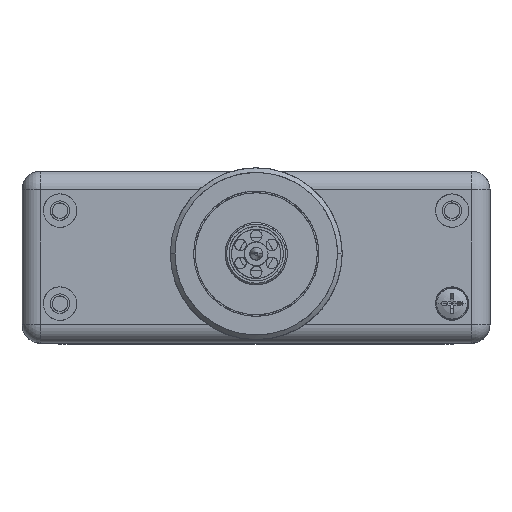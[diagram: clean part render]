
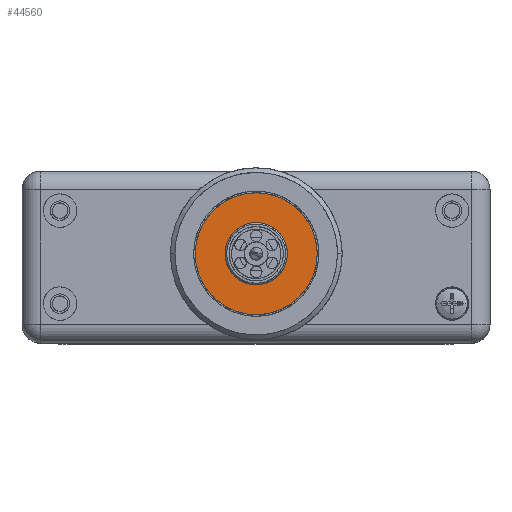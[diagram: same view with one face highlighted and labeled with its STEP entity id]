
A CAD part, top view. The second image highlights one B-rep face of the part: STEP entity #44560.
In plain terms, the highlighted planar face has unit normal (0, 0, 1).
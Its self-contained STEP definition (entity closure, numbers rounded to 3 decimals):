
#44467=CARTESIAN_POINT('',(-7.907,0.893,
20.176));
#44468=CARTESIAN_POINT('',(-7.888,1.452,
20.176));
#44469=CARTESIAN_POINT('',(-7.745,2.536,
20.176));
#44470=CARTESIAN_POINT('',(-7.195,4.089,
20.176));
#44471=CARTESIAN_POINT('',(-6.356,5.474,
20.176));
#44472=CARTESIAN_POINT('',(-5.272,6.647,
20.176));
#44473=CARTESIAN_POINT('',(-3.957,7.596,
20.176));
#44474=CARTESIAN_POINT('',(-2.398,8.287,
20.176));
#44475=CARTESIAN_POINT('',(-0.677,8.635,
20.176));
#44476=CARTESIAN_POINT('',(1.046,8.598,20.176));
#44477=CARTESIAN_POINT('',(2.697,8.203,20.176));
#44478=CARTESIAN_POINT('',(4.224,7.472,20.176));
#44479=CARTESIAN_POINT('',(5.538,6.454,20.176));
#44480=CARTESIAN_POINT('',(6.587,5.231,20.176));
#44481=CARTESIAN_POINT('',(7.377,3.803,20.176));
#44482=CARTESIAN_POINT('',(7.856,2.273,20.176));
#44483=CARTESIAN_POINT('',(7.963,1.21,20.176));
#44484=CARTESIAN_POINT('',(7.965,0.665,
20.176));
#44486=CARTESIAN_POINT('',(7.965,0.665,
20.176));
#44487=CARTESIAN_POINT('',(7.966,0.095,
20.176));
#44488=CARTESIAN_POINT('',(7.846,-1.025,
20.176));
#44489=CARTESIAN_POINT('',(7.286,-2.704,
20.176));
#44490=CARTESIAN_POINT('',(6.379,-4.197,
20.176));
#44491=CARTESIAN_POINT('',(5.203,-5.429,
20.176));
#44492=CARTESIAN_POINT('',(3.818,-6.374,
20.176));
#44493=CARTESIAN_POINT('',(2.275,-7.006,
20.176));
#44494=CARTESIAN_POINT('',(0.665,-7.299,
20.176));
#44495=CARTESIAN_POINT('',(-0.93,-7.27,
20.176));
#44496=CARTESIAN_POINT('',(-2.509,-6.912,
20.176));
#44497=CARTESIAN_POINT('',(-3.986,-6.253,
20.176));
#44498=CARTESIAN_POINT('',(-5.369,-5.238,
20.176));
#44499=CARTESIAN_POINT('',(-6.518,-3.935,
20.176));
#44500=CARTESIAN_POINT('',(-7.351,-2.425,
20.176));
#44501=CARTESIAN_POINT('',(-7.838,-0.774,
20.176));
#44502=CARTESIAN_POINT('',(-7.923,0.332,
20.176));
#44503=CARTESIAN_POINT('',(-7.907,0.893,
20.176));
#44505=CARTESIAN_POINT('',(0.144,-3.346,
20.176));
#44506=CARTESIAN_POINT('',(0.471,-3.334,
20.176));
#44507=CARTESIAN_POINT('',(1.099,-3.241,
20.176));
#44508=CARTESIAN_POINT('',(1.985,-2.88,
20.176));
#44509=CARTESIAN_POINT('',(2.751,-2.331,
20.176));
#44510=CARTESIAN_POINT('',(3.368,-1.625,
20.176));
#44511=CARTESIAN_POINT('',(3.821,-0.76,20.176));
#44512=CARTESIAN_POINT('',(4.062,0.246,
20.176));
#44513=CARTESIAN_POINT('',(4.038,1.25,20.176));
#44514=CARTESIAN_POINT('',(3.775,2.208,20.176));
#44515=CARTESIAN_POINT('',(3.294,3.063,20.176));
#44516=CARTESIAN_POINT('',(2.633,3.767,20.176));
#44517=CARTESIAN_POINT('',(1.842,4.286,20.176));
#44518=CARTESIAN_POINT('',(0.959,4.606,
20.176));
#44519=CARTESIAN_POINT('',(0.344,4.677,
20.176));
#44520=CARTESIAN_POINT('',(0.027,4.678,
20.176));
#44522=CARTESIAN_POINT('',(0.027,4.678,
20.176));
#44523=CARTESIAN_POINT('',(-0.309,4.679,
20.176));
#44524=CARTESIAN_POINT('',(-0.961,4.598,
20.176));
#44525=CARTESIAN_POINT('',(-1.928,4.22,
20.176));
#44526=CARTESIAN_POINT('',(-2.74,3.627,
20.176));
#44527=CARTESIAN_POINT('',(-3.376,2.867,
20.176));
#44528=CARTESIAN_POINT('',(-3.802,1.987,
20.176));
#44529=CARTESIAN_POINT('',(-4.004,1.053,
20.176));
#44530=CARTESIAN_POINT('',(-3.984,0.112,
20.176));
#44531=CARTESIAN_POINT('',(-3.752,-0.794,
20.176));
#44532=CARTESIAN_POINT('',(-3.298,-1.653,
20.176));
#44533=CARTESIAN_POINT('',(-2.625,-2.401,
20.176));
#44534=CARTESIAN_POINT('',(-1.781,-2.964,
20.176));
#44535=CARTESIAN_POINT('',(-0.829,-3.296,
20.176));
#44536=CARTESIAN_POINT('',(-0.185,-3.356,20.176));
#44537=CARTESIAN_POINT('',(0.144,-3.346,
20.176));
#44539=VERTEX_POINT('',#44484);
#44540=VERTEX_POINT('',#44467);
#44541=VERTEX_POINT('',#44520);
#44542=VERTEX_POINT('',#44505);
#44543=CARTESIAN_POINT('',(0.023,0.667,
20.176));
#44544=DIRECTION('',(0.,0.,1.));
#44545=DIRECTION('',(0.,1.,0.));
#44546=AXIS2_PLACEMENT_3D('',#44543,#44544,#44545);
#44547=PLANE('',#44546);
#44549=ORIENTED_EDGE('',*,*,#44548,.T.);
#44551=ORIENTED_EDGE('',*,*,#44550,.T.);
#44552=EDGE_LOOP('',(#44549,#44551));
#44553=FACE_OUTER_BOUND('',#44552,.F.);
#44555=ORIENTED_EDGE('',*,*,#44554,.T.);
#44557=ORIENTED_EDGE('',*,*,#44556,.T.);
#44558=EDGE_LOOP('',(#44555,#44557));
#44559=FACE_BOUND('',#44558,.F.);
#44560=ADVANCED_FACE('',(#44553,#44559),#44547,.T.);
#44485=B_SPLINE_CURVE_WITH_KNOTS('',3,(#44467,#44468,#44469,#44470,#44471,
#44472,#44473,#44474,#44475,#44476,#44477,#44478,#44479,#44480,#44481,#44482,
#44483,#44484),.UNSPECIFIED.,.F.,.F.,(4,1,1,1,1,1,1,1,1,1,1,1,1,1,1,4),(0.,
0.067,0.133,0.2,0.267,0.333,
0.4,0.467,0.533,0.6,0.667,
0.733,0.8,0.867,0.933,1.),
.UNSPECIFIED.);
#44504=B_SPLINE_CURVE_WITH_KNOTS('',3,(#44486,#44487,#44488,#44489,#44490,
#44491,#44492,#44493,#44494,#44495,#44496,#44497,#44498,#44499,#44500,#44501,
#44502,#44503),.UNSPECIFIED.,.F.,.F.,(4,1,1,1,1,1,1,1,1,1,1,1,1,1,1,4),(0.,
0.067,0.133,0.2,0.267,0.333,
0.4,0.467,0.533,0.6,0.667,
0.733,0.8,0.867,0.933,1.),
.UNSPECIFIED.);
#44521=B_SPLINE_CURVE_WITH_KNOTS('',3,(#44505,#44506,#44507,#44508,#44509,
#44510,#44511,#44512,#44513,#44514,#44515,#44516,#44517,#44518,#44519,#44520),
.UNSPECIFIED.,.F.,.F.,(4,1,1,1,1,1,1,1,1,1,1,1,1,4),(0.,0.077,
0.154,0.231,0.308,0.385,
0.462,0.538,0.615,0.692,
0.769,0.846,0.923,1.),.UNSPECIFIED.);
#44538=B_SPLINE_CURVE_WITH_KNOTS('',3,(#44522,#44523,#44524,#44525,#44526,
#44527,#44528,#44529,#44530,#44531,#44532,#44533,#44534,#44535,#44536,#44537),
.UNSPECIFIED.,.F.,.F.,(4,1,1,1,1,1,1,1,1,1,1,1,1,4),(0.,0.077,
0.154,0.231,0.308,0.385,
0.462,0.538,0.615,0.692,
0.769,0.846,0.923,1.),.UNSPECIFIED.);
#44548=EDGE_CURVE('',#44540,#44539,#44485,.T.);
#44550=EDGE_CURVE('',#44539,#44540,#44504,.T.);
#44554=EDGE_CURVE('',#44542,#44541,#44521,.T.);
#44556=EDGE_CURVE('',#44541,#44542,#44538,.T.);
